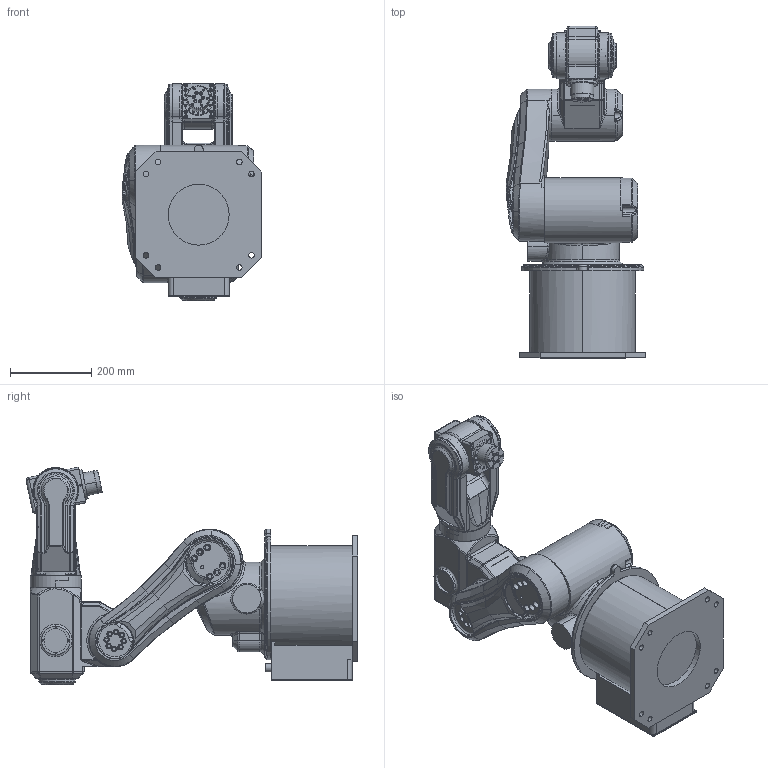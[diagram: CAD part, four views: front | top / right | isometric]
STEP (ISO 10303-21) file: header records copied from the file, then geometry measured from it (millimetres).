
FILE_DESCRIPTION((''),'2;1');
FILE_NAME('LT750-B-6_ASM','2020-09-11T09:01:07',('Z'),(''),'CREO PARAMETRIC BY PTC INC, 2019224','CREO PARAMETRIC BY PTC INC, 2019224','');
FILE_SCHEMA(('CONFIG_CONTROL_DESIGN'));
Products named in the file (7): 00_ASM; 000_ASM; 00; AB0_ASM; LT750-B-6_ASM
Assembly tree (6 placements, depth 2):
  LT750-B-6_ASM
    00_ASM
    000_ASM
    00
    000_ASM
    AB0_ASM
    000_ASM
Bounding box: 342.85 x 816.19 x 536.27 mm (x, y, z)
Surface area: 2229191 mm2 (no closed solid volume)
Topology: 0 solids, 31 shells, 2433 faces, 6127 edges, 3829 vertices
Faces by surface type: cylinder 969, plane 579, bspline 498, torus 189, sphere 100, cone 88, extrusion 10
Entity records: 96563 total; most frequent: CARTESIAN_POINT 40901, ORIENTED_EDGE 12088, DIRECTION 11146, EDGE_CURVE 6044, AXIS2_PLACEMENT_3D 4649, VERTEX_POINT 3829, EDGE_LOOP 2711, CIRCLE 2706
